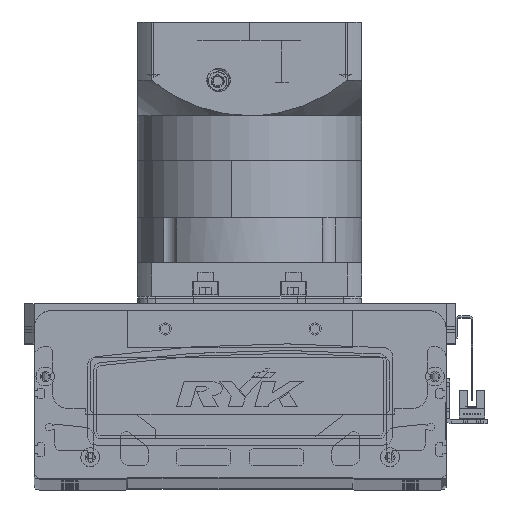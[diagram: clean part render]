
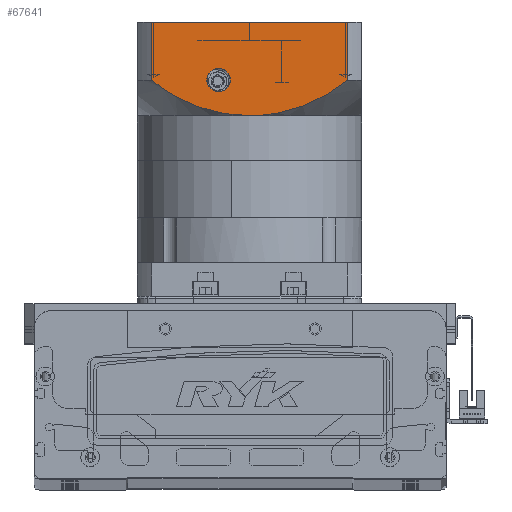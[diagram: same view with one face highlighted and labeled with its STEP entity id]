
A CAD part, top view. The second image highlights one B-rep face of the part: STEP entity #67641.
In plain terms, the highlighted planar face has unit normal (0, 0, 1) as drawn and (0, -1, 0) by its records, which use the part's own axes.
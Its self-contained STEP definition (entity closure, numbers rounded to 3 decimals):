
#1053 = DIRECTION ( 'NONE',  ( 0., 0., -1. ) ) ;
#1937 = CARTESIAN_POINT ( 'NONE',  ( -8.294, -60., -100.916 ) ) ;
#2675 = CARTESIAN_POINT ( 'NONE',  ( -18.792, -60., -102.562 ) ) ;
#4093 = LINE ( 'NONE', #5608, #54641 ) ;
#4388 = CARTESIAN_POINT ( 'NONE',  ( -60., -60., -150.5 ) ) ;
#4614 = VECTOR ( 'NONE', #72002, 1000. ) ;
#4890 = CARTESIAN_POINT ( 'NONE',  ( 16.426, -60., -102.169 ) ) ;
#5386 = B_SPLINE_CURVE_WITH_KNOTS ( 'NONE', 3,
 ( #55397, #66258, #16484, #15488, #4890, #61939, #21543, #62667, #33073, #38676, #38919, #15749, #73842, #45252, #73594, #50812, #10675, #27562 ),
 .UNSPECIFIED., .F., .F.,
 ( 4, 2, 2, 2, 2, 2, 2, 2, 4 ),
 ( 0., 0.014, 0.018, 0.021, 0.028, 0.042, 0.046, 0.05, 0.057 ),
 .UNSPECIFIED. ) ;
#5608 = CARTESIAN_POINT ( 'NONE',  ( 52.156, -60., -150.5 ) ) ;
#7470 = CARTESIAN_POINT ( 'NONE',  ( -4.747, -60., -100.604 ) ) ;
#8060 = CARTESIAN_POINT ( 'NONE',  ( 16.5, -60., -119.5 ) ) ;
#8185 = VERTEX_POINT ( 'NONE', #57677 ) ;
#8466 = CARTESIAN_POINT ( 'NONE',  ( -32.118, -60., -107.084 ) ) ;
#10675 = CARTESIAN_POINT ( 'NONE',  ( 50.338, -60., -117.969 ) ) ;
#14364 = EDGE_CURVE ( 'NONE', #49692, #37360, #42182, .T. ) ;
#14726 = CARTESIAN_POINT ( 'NONE',  ( -52.156, -60., -97.5 ) ) ;
#14959 = CARTESIAN_POINT ( 'NONE',  ( 52.156, -60., -150.5 ) ) ;
#15488 = CARTESIAN_POINT ( 'NONE',  ( 15.267, -60., -101.938 ) ) ;
#15749 = CARTESIAN_POINT ( 'NONE',  ( 41.545, -60., -111.931 ) ) ;
#16484 = CARTESIAN_POINT ( 'NONE',  ( 9.454, -60., -100.914 ) ) ;
#17359 = AXIS2_PLACEMENT_3D ( 'NONE', #70231, #59361, #1053 ) ;
#20612 = ORIENTED_EDGE ( 'NONE', *, *, #72938, .T. ) ;
#21200 = B_SPLINE_CURVE_WITH_KNOTS ( 'NONE', 3,
 ( #42047, #42536, #48827, #59999, #31368, #71353, #48322, #8466, #37204, #30380, #2675, #65042, #70862, #60225, #1937, #7470, #30627, #47813 ),
 .UNSPECIFIED., .F., .F.,
 ( 4, 2, 2, 2, 2, 2, 2, 2, 4 ),
 ( 0., 0.014, 0.018, 0.021, 0.028, 0.042, 0.046, 0.05, 0.057 ),
 .UNSPECIFIED. ) ;
#21543 = CARTESIAN_POINT ( 'NONE',  ( 19.894, -60., -102.964 ) ) ;
#23521 = LINE ( 'NONE', #26006, #4614 ) ;
#23612 = EDGE_LOOP ( 'NONE', ( #70505, #20612 ) ) ;
#24318 = VERTEX_POINT ( 'NONE', #14959 ) ;
#25730 = EDGE_CURVE ( 'NONE', #49692, #24318, #23521, .T. ) ;
#26006 = CARTESIAN_POINT ( 'NONE',  ( -60., -60., -150.5 ) ) ;
#27562 = CARTESIAN_POINT ( 'NONE',  ( 52.156, -60., -119.5 ) ) ;
#28039 = DIRECTION ( 'NONE',  ( 1., 0., 0. ) ) ;
#30380 = CARTESIAN_POINT ( 'NONE',  ( -23.319, -60., -103.777 ) ) ;
#30627 = CARTESIAN_POINT ( 'NONE',  ( -2.376, -60., -100.5 ) ) ;
#31092 = FACE_BOUND ( 'NONE', #23612, .T. ) ;
#31368 = CARTESIAN_POINT ( 'NONE',  ( -38.51, -60., -110.207 ) ) ;
#32297 = DIRECTION ( 'NONE',  ( 0., 0., 1. ) ) ;
#33073 = CARTESIAN_POINT ( 'NONE',  ( 25.577, -60., -104.596 ) ) ;
#35028 = ORIENTED_EDGE ( 'NONE', *, *, #14364, .F. ) ;
#35223 = AXIS2_PLACEMENT_3D ( 'NONE', #4388, #56881, #28039 ) ;
#35322 = AXIS2_PLACEMENT_3D ( 'NONE', #8060, #72188, #48419 ) ;
#36862 = ORIENTED_EDGE ( 'NONE', *, *, #46648, .F. ) ;
#37204 = CARTESIAN_POINT ( 'NONE',  ( -29.939, -60., -106.183 ) ) ;
#37360 = VERTEX_POINT ( 'NONE', #59003 ) ;
#37733 = VERTEX_POINT ( 'NONE', #48843 ) ;
#38676 = CARTESIAN_POINT ( 'NONE',  ( 32.196, -60., -107.007 ) ) ;
#38919 = CARTESIAN_POINT ( 'NONE',  ( 36.444, -60., -108.986 ) ) ;
#38979 = VERTEX_POINT ( 'NONE', #73729 ) ;
#39649 = PLANE ( 'NONE',  #35223 ) ;
#40343 = VECTOR ( 'NONE', #32297, 1000. ) ;
#42013 = FACE_OUTER_BOUND ( 'NONE', #48216, .T. ) ;
#42047 = CARTESIAN_POINT ( 'NONE',  ( -52.156, -60., -119.5 ) ) ;
#42182 = LINE ( 'NONE', #14726, #40343 ) ;
#42536 = CARTESIAN_POINT ( 'NONE',  ( -48.52, -60., -116.438 ) ) ;
#43283 = CIRCLE ( 'NONE', #17359, 6.25 ) ;
#43764 = ORIENTED_EDGE ( 'NONE', *, *, #67805, .T. ) ;
#45015 = CIRCLE ( 'NONE', #35322, 6.25 ) ;
#45252 = CARTESIAN_POINT ( 'NONE',  ( 44.553, -60., -113.817 ) ) ;
#45279 = CARTESIAN_POINT ( 'NONE',  ( -52.156, -60., -150.5 ) ) ;
#45992 = VERTEX_POINT ( 'NONE', #51002 ) ;
#46212 = DIRECTION ( 'NONE',  ( 0., 0., 1. ) ) ;
#46648 = EDGE_CURVE ( 'NONE', #37360, #38979, #21200, .T. ) ;
#47813 = CARTESIAN_POINT ( 'NONE',  ( 0., -60., -100.5 ) ) ;
#48216 = EDGE_LOOP ( 'NONE', ( #35028, #67561, #43764, #66271, #36862 ) ) ;
#48322 = CARTESIAN_POINT ( 'NONE',  ( -35.342, -60., -108.587 ) ) ;
#48419 = DIRECTION ( 'NONE',  ( 0., 0., -1. ) ) ;
#48827 = CARTESIAN_POINT ( 'NONE',  ( -44.656, -60., -113.73 ) ) ;
#48843 = CARTESIAN_POINT ( 'NONE',  ( 52.156, -60., -119.5 ) ) ;
#49692 = VERTEX_POINT ( 'NONE', #45279 ) ;
#50812 = CARTESIAN_POINT ( 'NONE',  ( 48.457, -60., -116.522 ) ) ;
#51002 = CARTESIAN_POINT ( 'NONE',  ( 16.5, -60., -113.25 ) ) ;
#54641 = VECTOR ( 'NONE', #46212, 1000. ) ;
#55397 = CARTESIAN_POINT ( 'NONE',  ( 0., -60., -100.5 ) ) ;
#56781 = EDGE_CURVE ( 'NONE', #8185, #45992, #43283, .T. ) ;
#56881 = DIRECTION ( 'NONE',  ( 0., -1., 0. ) ) ;
#57677 = CARTESIAN_POINT ( 'NONE',  ( 16.5, -60., -125.75 ) ) ;
#59003 = CARTESIAN_POINT ( 'NONE',  ( -52.156, -60., -119.5 ) ) ;
#59299 = EDGE_CURVE ( 'NONE', #38979, #37733, #5386, .T. ) ;
#59361 = DIRECTION ( 'NONE',  ( 0., 1., 0. ) ) ;
#59999 = CARTESIAN_POINT ( 'NONE',  ( -39.546, -60., -110.776 ) ) ;
#60225 = CARTESIAN_POINT ( 'NONE',  ( -9.477, -60., -101.046 ) ) ;
#61939 = CARTESIAN_POINT ( 'NONE',  ( 18.739, -60., -102.681 ) ) ;
#62667 = CARTESIAN_POINT ( 'NONE',  ( 23.329, -60., -103.886 ) ) ;
#65042 = CARTESIAN_POINT ( 'NONE',  ( -12.993, -60., -101.537 ) ) ;
#66258 = CARTESIAN_POINT ( 'NONE',  ( 4.753, -60., -100.5 ) ) ;
#66271 = ORIENTED_EDGE ( 'NONE', *, *, #59299, .F. ) ;
#67561 = ORIENTED_EDGE ( 'NONE', *, *, #25730, .T. ) ;
#67641 = ADVANCED_FACE ( 'NONE', ( #42013, #31092 ), #39649, .T. ) ;
#67805 = EDGE_CURVE ( 'NONE', #24318, #37733, #4093, .T. ) ;
#70231 = CARTESIAN_POINT ( 'NONE',  ( 16.5, -60., -119.5 ) ) ;
#70505 = ORIENTED_EDGE ( 'NONE', *, *, #56781, .T. ) ;
#70862 = CARTESIAN_POINT ( 'NONE',  ( -11.825, -60., -101.356 ) ) ;
#71353 = CARTESIAN_POINT ( 'NONE',  ( -36.409, -60., -109.113 ) ) ;
#72002 = DIRECTION ( 'NONE',  ( 1., 0., 0. ) ) ;
#72188 = DIRECTION ( 'NONE',  ( 0., 1., 0. ) ) ;
#72938 = EDGE_CURVE ( 'NONE', #45992, #8185, #45015, .T. ) ;
#73594 = CARTESIAN_POINT ( 'NONE',  ( 45.542, -60., -114.478 ) ) ;
#73729 = CARTESIAN_POINT ( 'NONE',  ( 0., -60., -100.5 ) ) ;
#73842 = CARTESIAN_POINT ( 'NONE',  ( 42.555, -60., -112.543 ) ) ;
